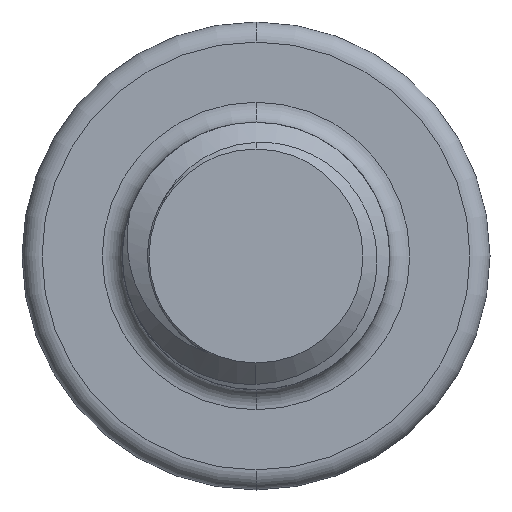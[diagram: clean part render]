
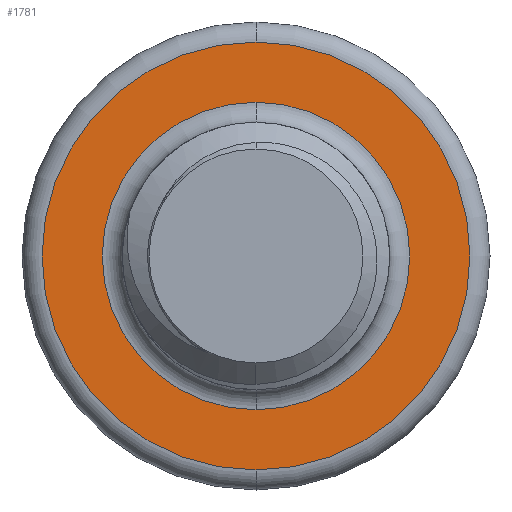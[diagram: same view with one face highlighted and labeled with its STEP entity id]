
A CAD part, front view. The second image highlights one B-rep face of the part: STEP entity #1781.
In plain terms, the highlighted planar face has unit normal (0, -1, 0).
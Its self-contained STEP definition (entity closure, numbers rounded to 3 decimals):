
#4 = CARTESIAN_POINT ( 'NONE',  ( 0., 8., 0. ) ) ;
#22 = DIRECTION ( 'NONE',  ( 0., -1., 0. ) ) ;
#44 = FACE_BOUND ( 'NONE', #2045, .T. ) ;
#60 = AXIS2_PLACEMENT_3D ( 'NONE', #4, #935, #1860 ) ;
#305 = DIRECTION ( 'NONE',  ( 0., 0., -1. ) ) ;
#375 = ORIENTED_EDGE ( 'NONE', *, *, #2732, .T. ) ;
#478 = ORIENTED_EDGE ( 'NONE', *, *, #653, .T. ) ;
#487 = EDGE_CURVE ( 'NONE', #2107, #1268, #2335, .T. ) ;
#600 = CARTESIAN_POINT ( 'NONE',  ( 0., 8., -3.2 ) ) ;
#653 = EDGE_CURVE ( 'NONE', #1223, #2813, #1366, .T. ) ;
#680 = CARTESIAN_POINT ( 'NONE',  ( 0., 8., 0. ) ) ;
#698 = EDGE_CURVE ( 'NONE', #1268, #2107, #2785, .T. ) ;
#739 = DIRECTION ( 'NONE',  ( 0., -1., 0. ) ) ;
#783 = CARTESIAN_POINT ( 'NONE',  ( 0., 8., 2.3 ) ) ;
#935 = DIRECTION ( 'NONE',  ( 0., 1., 0. ) ) ;
#954 = DIRECTION ( 'NONE',  ( 0., 0., -1. ) ) ;
#972 = FACE_OUTER_BOUND ( 'NONE', #2428, .T. ) ;
#1019 = AXIS2_PLACEMENT_3D ( 'NONE', #680, #1612, #2535 ) ;
#1223 = VERTEX_POINT ( 'NONE', #2439 ) ;
#1268 = VERTEX_POINT ( 'NONE', #600 ) ;
#1366 = CIRCLE ( 'NONE', #60, 2.3 ) ;
#1467 = CARTESIAN_POINT ( 'NONE',  ( 0., 8., 0. ) ) ;
#1475 = AXIS2_PLACEMENT_3D ( 'NONE', #2106, #22, #954 ) ;
#1569 = CARTESIAN_POINT ( 'NONE',  ( 0., 8., 3.2 ) ) ;
#1612 = DIRECTION ( 'NONE',  ( 0., -1., 0. ) ) ;
#1667 = DIRECTION ( 'NONE',  ( 0., 0., -1. ) ) ;
#1781 = ADVANCED_FACE ( 'NONE', ( #44, #972 ), #1899, .T. ) ;
#1860 = DIRECTION ( 'NONE',  ( 0., 0., -1. ) ) ;
#1899 = PLANE ( 'NONE',  #2334 ) ;
#1980 = ORIENTED_EDGE ( 'NONE', *, *, #487, .T. ) ;
#2045 = EDGE_LOOP ( 'NONE', ( #478, #375 ) ) ;
#2068 = ORIENTED_EDGE ( 'NONE', *, *, #698, .T. ) ;
#2106 = CARTESIAN_POINT ( 'NONE',  ( 0., 8., 0. ) ) ;
#2107 = VERTEX_POINT ( 'NONE', #1569 ) ;
#2334 = AXIS2_PLACEMENT_3D ( 'NONE', #2822, #739, #1667 ) ;
#2335 = CIRCLE ( 'NONE', #1019, 3.2 ) ;
#2392 = DIRECTION ( 'NONE',  ( 0., 1., 0. ) ) ;
#2428 = EDGE_LOOP ( 'NONE', ( #2068, #1980 ) ) ;
#2439 = CARTESIAN_POINT ( 'NONE',  ( 0., 8., -2.3 ) ) ;
#2535 = DIRECTION ( 'NONE',  ( 0., 0., -1. ) ) ;
#2609 = CIRCLE ( 'NONE', #3000, 2.3 ) ;
#2732 = EDGE_CURVE ( 'NONE', #2813, #1223, #2609, .T. ) ;
#2785 = CIRCLE ( 'NONE', #1475, 3.2 ) ;
#2813 = VERTEX_POINT ( 'NONE', #783 ) ;
#2822 = CARTESIAN_POINT ( 'NONE',  ( 0., 8., -3.5 ) ) ;
#3000 = AXIS2_PLACEMENT_3D ( 'NONE', #1467, #2392, #305 ) ;
